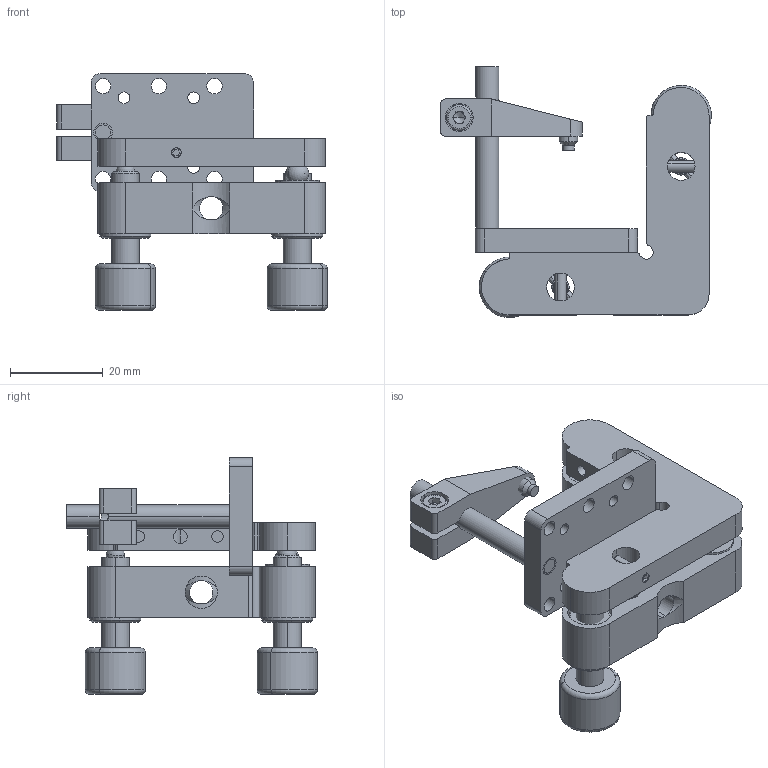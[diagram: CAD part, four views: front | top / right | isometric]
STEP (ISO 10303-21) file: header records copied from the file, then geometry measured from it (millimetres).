
FILE_DESCRIPTION (( 'STEP AP203' ), '1' );
FILE_NAME ('二维调整架（小）.STEP', '2022-09-20T08:12:52', ( '' ), ( '' ), 'SwSTEP 2.0', 'SolidWorks 2018', '' );
FILE_SCHEMA (( 'CONFIG_CONTROL_DESIGN' ));
Length unit declared in the file: millimetre
Products named in the file (1): 媼峎覃淕殤ㄗ苤ㄘ
Bounding box: 58.29 x 53.99 x 51 mm (x, y, z)
Surface area: 16705.8 mm2 (no closed solid volume)
Topology: 0 solids, 41 shells, 310 faces, 920 edges, 612 vertices
Faces by surface type: cylinder 149, plane 105, cone 28, torus 18, sphere 6, bspline 4
Entity records: 12690 total; most frequent: CARTESIAN_POINT 4170, DIRECTION 1916, ORIENTED_EDGE 1545, EDGE_CURVE 897, AXIS2_PLACEMENT_3D 749, VERTEX_POINT 603, CIRCLE 442, VECTOR 418
